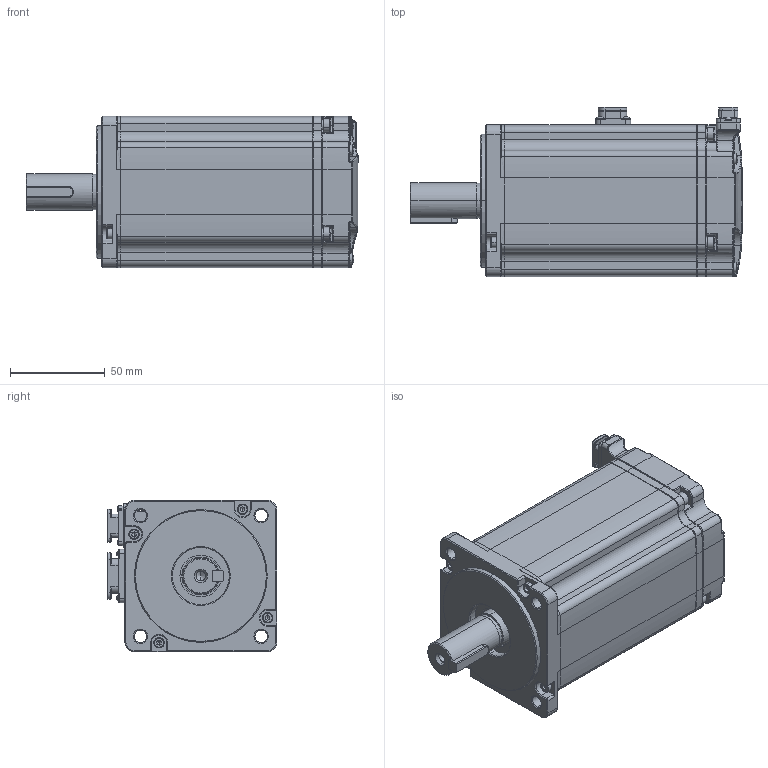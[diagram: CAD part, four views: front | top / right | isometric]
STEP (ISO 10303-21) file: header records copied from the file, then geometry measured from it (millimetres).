
FILE_DESCRIPTION (( 'STEP AP203' ), '1' );
FILE_NAME ('EM3J-08ALA243.STEP', '2022-10-27T09:28:24', ( 'USER' ), ( '' ), 'SwSTEP 2.0', 'SolidWorks 2018', '' );
FILE_SCHEMA (( 'CONFIG_CONTROL_DESIGN' ));
Products named in the file (1): EM3J-08ALA243
Bounding box: 175 x 89.3 x 80 mm (x, y, z)
Volume: 309462.6 mm3; surface area: 149983 mm2
Topology: 33 solids, 33 shells, 3115 faces, 7847 edges, 4871 vertices
Faces by surface type: plane 1358, cylinder 961, cone 319, torus 271, bspline 136, sphere 70
Entity records: 103642 total; most frequent: CARTESIAN_POINT 28746, DIRECTION 15877, ORIENTED_EDGE 15584, EDGE_CURVE 7792, AXIS2_PLACEMENT_3D 5800, VERTEX_POINT 4871, VECTOR 4277, LINE 4277
